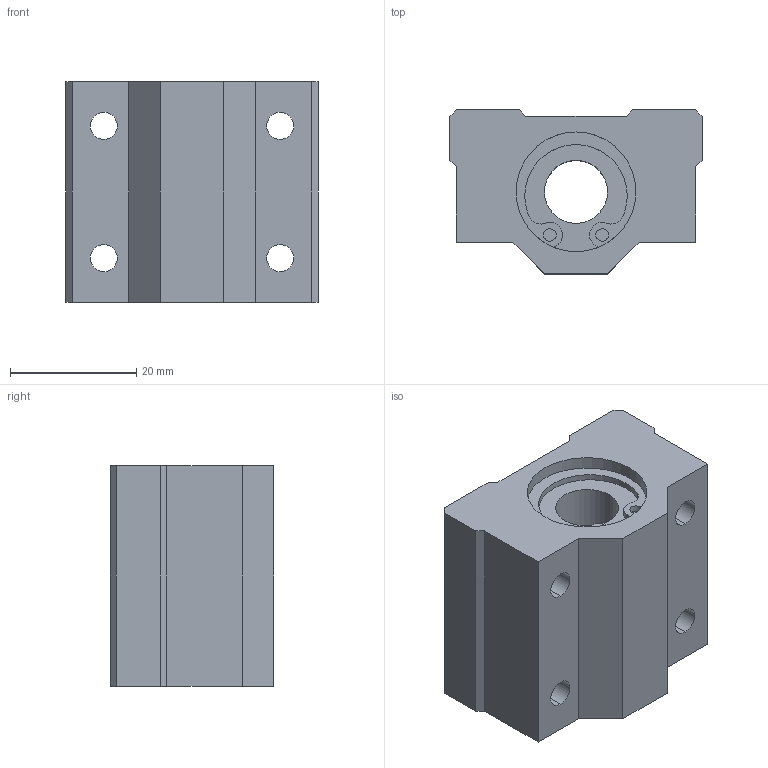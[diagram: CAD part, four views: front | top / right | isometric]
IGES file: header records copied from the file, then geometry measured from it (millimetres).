
Start section: 3D InterOp IGES (Version 21 0 1), Spatial Corp. Copyright (c) 1999-2007.
Global section: file name: LC-10VAUU.igs; native system: Spatial Corp.; preprocessor: 3D InterOp GENERIC/IGES 3.0; author: Noname; organization: Noname; date: 20220519.103827; units: millimetre
Bounding box: 40 x 26 x 35 mm (x, y, z)
Surface area: 8260.2 mm2 (no closed solid volume)
Topology: 0 solids, 0 shells, 74 faces, 380 edges, 380 vertices
Faces by surface type: revolution 46, extrusion 28
